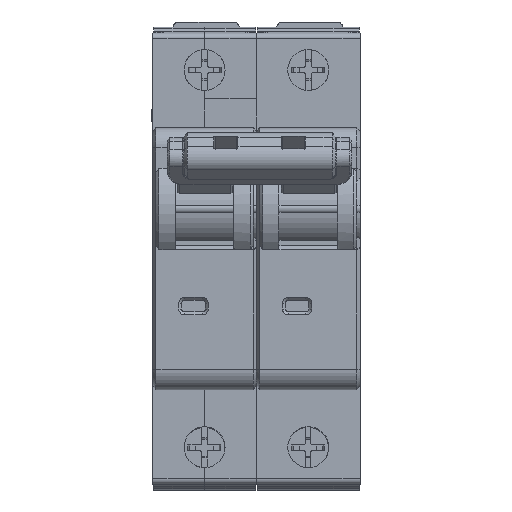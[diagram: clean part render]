
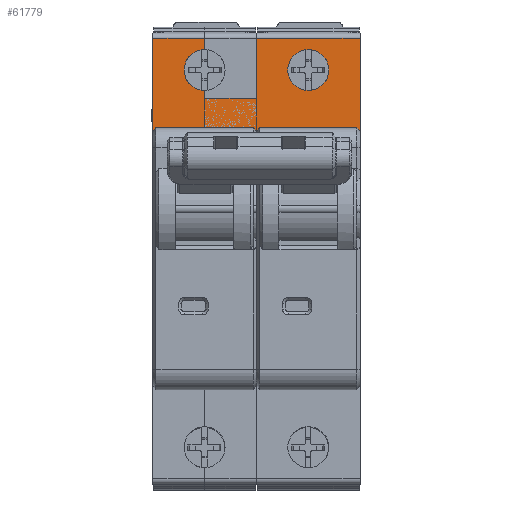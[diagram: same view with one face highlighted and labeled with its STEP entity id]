
A CAD part, left-side view. The second image highlights one B-rep face of the part: STEP entity #61779.
In plain terms, the highlighted planar face has unit normal (-1, 0, 0).
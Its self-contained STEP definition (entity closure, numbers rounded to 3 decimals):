
#2436=DIRECTION('',(0.,1.,0.));
#2437=VECTOR('',#2436,8.85);
#2438=CARTESIAN_POINT('',(7.,17.7,35.));
#2439=LINE('',#2438,#2437);
#5958=DIRECTION('',(0.,1.,0.));
#5959=VECTOR('',#5958,8.85);
#5960=CARTESIAN_POINT('',(7.,26.55,45.2));
#5961=LINE('',#5960,#5959);
#10245=DIRECTION('',(0.,1.,0.));
#10246=VECTOR('',#10245,17.7);
#10247=CARTESIAN_POINT('',(7.,0.,45.2));
#10248=LINE('',#10247,#10246);
#10253=DIRECTION('',(0.,0.567,-0.824));
#10254=VECTOR('',#10253,0.971);
#10255=CARTESIAN_POINT('',(7.,17.15,30.));
#10256=LINE('',#10255,#10254);
#10257=DIRECTION('',(0.,1.,0.));
#10258=VECTOR('',#10257,3.85);
#10259=CARTESIAN_POINT('',(7.,17.7,29.));
#10260=LINE('',#10259,#10258);
#10261=DIRECTION('',(0.,0.,1.));
#10262=VECTOR('',#10261,1.);
#10263=CARTESIAN_POINT('',(7.,21.55,29.));
#10264=LINE('',#10263,#10262);
#10265=DIRECTION('',(0.,0.567,-0.824));
#10266=VECTOR('',#10265,0.971);
#10267=CARTESIAN_POINT('',(7.,34.85,30.));
#10268=LINE('',#10267,#10266);
#10269=DIRECTION('',(0.,0.,1.));
#10270=VECTOR('',#10269,16.);
#10271=CARTESIAN_POINT('',(7.,35.4,29.2));
#10272=LINE('',#10271,#10270);
#10273=DIRECTION('',(0.,0.,-1.));
#10274=VECTOR('',#10273,1.9);
#10275=CARTESIAN_POINT('',(7.,26.55,45.2));
#10276=LINE('',#10275,#10274);
#10277=CARTESIAN_POINT('',(7.,26.55,39.8));
#10278=DIRECTION('',(-1.,0.,0.));
#10279=DIRECTION('',(0.,0.,1.));
#10280=AXIS2_PLACEMENT_3D('',#10277,#10278,#10279);
#10282=DIRECTION('',(0.,0.,-1.));
#10283=VECTOR('',#10282,1.3);
#10284=CARTESIAN_POINT('',(7.,26.55,36.3));
#10285=LINE('',#10284,#10283);
#10286=DIRECTION('',(0.,0.,1.));
#10287=VECTOR('',#10286,10.2);
#10288=CARTESIAN_POINT('',(7.,17.7,35.));
#10289=LINE('',#10288,#10287);
#10290=DIRECTION('',(0.,0.,-1.));
#10291=VECTOR('',#10290,16.);
#10292=CARTESIAN_POINT('',(7.,0.,45.2));
#10293=LINE('',#10292,#10291);
#10294=DIRECTION('',(0.,0.567,0.824));
#10295=VECTOR('',#10294,0.971);
#10296=CARTESIAN_POINT('',(7.,0.,29.2));
#10297=LINE('',#10296,#10295);
#10298=CARTESIAN_POINT('',(7.,8.85,39.8));
#10299=DIRECTION('',(-1.,0.,0.));
#10300=DIRECTION('',(0.,0.,-1.));
#10301=AXIS2_PLACEMENT_3D('',#10298,#10299,#10300);
#10303=CARTESIAN_POINT('',(7.,8.85,39.8));
#10304=DIRECTION('',(-1.,0.,0.));
#10305=DIRECTION('',(0.,0.,1.));
#10306=AXIS2_PLACEMENT_3D('',#10303,#10304,#10305);
#10416=DIRECTION('',(0.,-1.,0.));
#10417=VECTOR('',#10416,16.6);
#10418=CARTESIAN_POINT('',(7.,17.15,30.));
#10419=LINE('',#10418,#10417);
#14525=DIRECTION('',(0.,-1.,0.));
#14526=VECTOR('',#14525,13.3);
#14527=CARTESIAN_POINT('',(7.,34.85,30.));
#14528=LINE('',#14527,#14526);
#14561=DIRECTION('',(0.,0.,-1.));
#14562=VECTOR('',#14561,0.2);
#14563=CARTESIAN_POINT('',(7.,17.7,29.2));
#14564=LINE('',#14563,#14562);
#38612=CARTESIAN_POINT('',(7.,0.,29.2));
#38614=VERTEX_POINT('',#38612);
#38615=CARTESIAN_POINT('',(7.,0.,45.2));
#38616=VERTEX_POINT('',#38615);
#38751=CARTESIAN_POINT('',(7.,0.55,30.));
#38752=VERTEX_POINT('',#38751);
#40965=CARTESIAN_POINT('',(7.,17.7,45.2));
#40966=VERTEX_POINT('',#40965);
#42650=CARTESIAN_POINT('',(7.,17.15,30.));
#42651=VERTEX_POINT('',#42650);
#43062=CARTESIAN_POINT('',(7.,8.85,43.3));
#43064=VERTEX_POINT('',#43062);
#43094=CARTESIAN_POINT('',(7.,8.85,36.3));
#43096=VERTEX_POINT('',#43094);
#45617=CARTESIAN_POINT('',(7.,35.4,45.2));
#45618=VERTEX_POINT('',#45617);
#45619=CARTESIAN_POINT('',(7.,35.4,29.2));
#45620=VERTEX_POINT('',#45619);
#45869=CARTESIAN_POINT('',(7.,26.55,43.3));
#45870=VERTEX_POINT('',#45869);
#45871=CARTESIAN_POINT('',(7.,26.55,45.2));
#45872=VERTEX_POINT('',#45871);
#45987=CARTESIAN_POINT('',(7.,26.55,35.));
#45989=VERTEX_POINT('',#45987);
#45991=CARTESIAN_POINT('',(7.,26.55,36.3));
#45992=VERTEX_POINT('',#45991);
#46233=CARTESIAN_POINT('',(7.,21.55,29.));
#46234=CARTESIAN_POINT('',(7.,21.55,30.));
#46235=VERTEX_POINT('',#46233);
#46236=VERTEX_POINT('',#46234);
#46237=CARTESIAN_POINT('',(7.,34.85,30.));
#46238=VERTEX_POINT('',#46237);
#48547=CARTESIAN_POINT('',(7.,17.7,29.2));
#48548=CARTESIAN_POINT('',(7.,17.7,29.));
#48549=VERTEX_POINT('',#48547);
#48550=VERTEX_POINT('',#48548);
#48582=CARTESIAN_POINT('',(7.,17.7,35.));
#48584=VERTEX_POINT('',#48582);
#61739=CARTESIAN_POINT('',(7.,0.,0.));
#61740=DIRECTION('',(-1.,0.,0.));
#61741=DIRECTION('',(0.,0.,-1.));
#61742=AXIS2_PLACEMENT_3D('',#61739,#61740,#61741);
#61743=PLANE('',#61742);
#61745=ORIENTED_EDGE('',*,*,#61744,.T.);
#61747=ORIENTED_EDGE('',*,*,#61746,.T.);
#61749=ORIENTED_EDGE('',*,*,#61748,.T.);
#61751=ORIENTED_EDGE('',*,*,#61750,.T.);
#61753=ORIENTED_EDGE('',*,*,#61752,.F.);
#61755=ORIENTED_EDGE('',*,*,#61754,.T.);
#61756=ORIENTED_EDGE('',*,*,#56339,.T.);
#61757=ORIENTED_EDGE('',*,*,#56474,.F.);
#61758=ORIENTED_EDGE('',*,*,#56490,.T.);
#61760=ORIENTED_EDGE('',*,*,#61759,.T.);
#61762=ORIENTED_EDGE('',*,*,#61761,.T.);
#61763=ORIENTED_EDGE('',*,*,#51670,.F.);
#61764=ORIENTED_EDGE('',*,*,#51733,.T.);
#61765=ORIENTED_EDGE('',*,*,#61731,.F.);
#61766=ORIENTED_EDGE('',*,*,#61569,.T.);
#61768=ORIENTED_EDGE('',*,*,#61767,.T.);
#61770=ORIENTED_EDGE('',*,*,#61769,.F.);
#61771=EDGE_LOOP('',(#61745,#61747,#61749,#61751,#61753,#61755,#61756,#61757,
#61758,#61760,#61762,#61763,#61764,#61765,#61766,#61768,#61770));
#61772=FACE_OUTER_BOUND('',#61771,.F.);
#61774=ORIENTED_EDGE('',*,*,#61773,.T.);
#61776=ORIENTED_EDGE('',*,*,#61775,.T.);
#61777=EDGE_LOOP('',(#61774,#61776));
#61778=FACE_BOUND('',#61777,.F.);
#61779=ADVANCED_FACE('',(#61772,#61778),#61743,.T.);
#10281=CIRCLE('',#10280,3.5);
#10302=CIRCLE('',#10301,3.5);
#10307=CIRCLE('',#10306,3.5);
#51670=EDGE_CURVE('',#48584,#45989,#2439,.T.);
#51733=EDGE_CURVE('',#48584,#40966,#10289,.T.);
#56339=EDGE_CURVE('',#45620,#45618,#10272,.T.);
#56474=EDGE_CURVE('',#45872,#45618,#5961,.T.);
#56490=EDGE_CURVE('',#45872,#45870,#10276,.T.);
#61569=EDGE_CURVE('',#38616,#38614,#10293,.T.);
#61731=EDGE_CURVE('',#38616,#40966,#10248,.T.);
#61744=EDGE_CURVE('',#42651,#48549,#10256,.T.);
#61746=EDGE_CURVE('',#48549,#48550,#14564,.T.);
#61748=EDGE_CURVE('',#48550,#46235,#10260,.T.);
#61750=EDGE_CURVE('',#46235,#46236,#10264,.T.);
#61752=EDGE_CURVE('',#46238,#46236,#14528,.T.);
#61754=EDGE_CURVE('',#46238,#45620,#10268,.T.);
#61759=EDGE_CURVE('',#45870,#45992,#10281,.T.);
#61761=EDGE_CURVE('',#45992,#45989,#10285,.T.);
#61767=EDGE_CURVE('',#38614,#38752,#10297,.T.);
#61769=EDGE_CURVE('',#42651,#38752,#10419,.T.);
#61773=EDGE_CURVE('',#43096,#43064,#10302,.T.);
#61775=EDGE_CURVE('',#43064,#43096,#10307,.T.);
